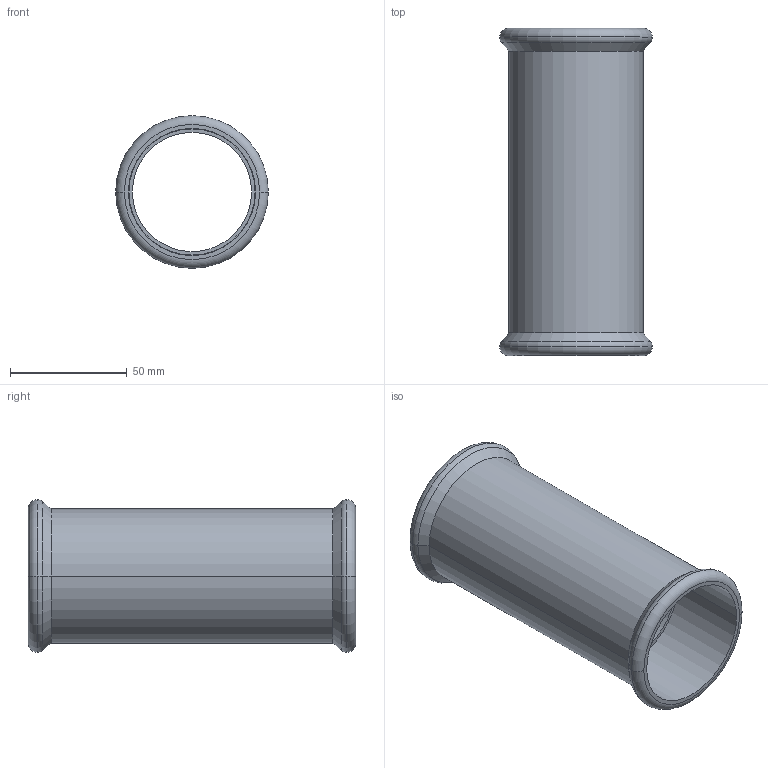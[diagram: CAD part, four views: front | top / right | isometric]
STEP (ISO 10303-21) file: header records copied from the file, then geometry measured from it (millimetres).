
FILE_DESCRIPTION(('CoCreate Modeling STEP Export'),'2;1');
FILE_NAME('C1403 54x54.stp','2014-11-07T14:07:46',(''),(''),'CoCreate Modeling STEP processor for AP214 (Solid Model)','CoCreate Modeling 17.00A 17-Jun-2010 (C) Parametric Technology GmbH','');
FILE_SCHEMA(('AUTOMOTIVE_DESIGN { 1 0 10303 214 1 1 1 1 }'));
Length unit declared in the file: millimetre
Products named in the file (2): C1403_54x54
Assembly tree (1 placements, depth 2):
  C1403_54x54
    C1403_54x54
Bounding box: 65.3 x 140 x 65.3 mm (x, y, z)
Volume: 66479.9 mm3; surface area: 51587.8 mm2
Topology: 1 solids, 1 shells, 30 faces, 62 edges, 38 vertices
Faces by surface type: cylinder 12, torus 8, plane 6, cone 4
Entity records: 691 total; most frequent: ORIENTED_EDGE 124, DIRECTION 104, CARTESIAN_POINT 98, EDGE_CURVE 62, AXIS2_PLACEMENT_3D 44, VERTEX_POINT 38, EDGE_LOOP 36, FACE_OUTER_BOUND 30
